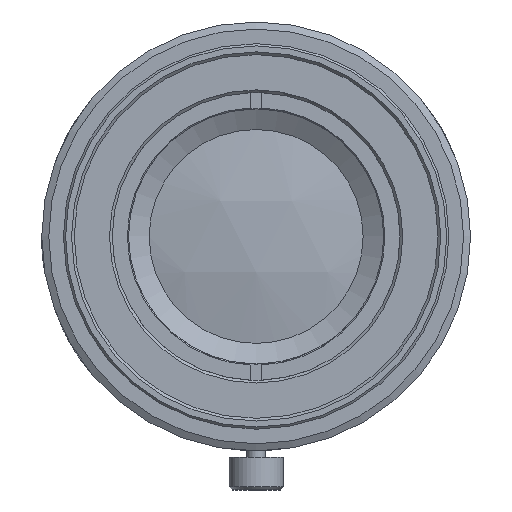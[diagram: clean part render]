
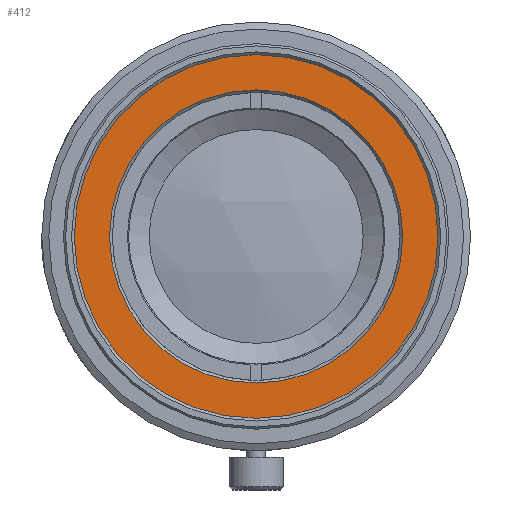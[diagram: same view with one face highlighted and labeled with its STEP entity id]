
A CAD part, front view. The second image highlights one B-rep face of the part: STEP entity #412.
In plain terms, the highlighted planar face has unit normal (0, -1, 0).
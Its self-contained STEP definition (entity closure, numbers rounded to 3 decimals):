
#412 = ADVANCED_FACE( 'NONE', ( #1066, #1067 ), #1068, .F. );
#1066 = FACE_OUTER_BOUND( '', #2039, .T. );
#1067 = FACE_BOUND( '', #2040, .T. );
#1068 = PLANE( '', #2041 );
#2039 = EDGE_LOOP( '', ( #3302 ) );
#2040 = EDGE_LOOP( '', ( #3303 ) );
#2041 = AXIS2_PLACEMENT_3D( '', #3304, #3305, #3306 );
#3302 = ORIENTED_EDGE( '', *, *, #5328, .T. );
#3303 = ORIENTED_EDGE( '', *, *, #5152, .F. );
#3304 = CARTESIAN_POINT( '', ( 0., -51.377, 17. ) );
#3305 = DIRECTION( '', ( 0., 1., 0. ) );
#3306 = DIRECTION( '', ( 1., 0., 0. ) );
#5152 = EDGE_CURVE( 'NONE', #6084, #6084, #6085, .T. );
#5328 = EDGE_CURVE( 'NONE', #6384, #6384, #6385, .T. );
#6084 = VERTEX_POINT( '', #7582 );
#6085 = CIRCLE( '', #7583, 13.5 );
#6384 = VERTEX_POINT( '', #8160 );
#6385 = CIRCLE( '', #8161, 17. );
#7582 = CARTESIAN_POINT( '', ( 13.5, -51.377, 0. ) );
#7583 = AXIS2_PLACEMENT_3D( '', #9667, #9668, #9669 );
#8160 = CARTESIAN_POINT( '', ( 0., -51.377, 17. ) );
#8161 = AXIS2_PLACEMENT_3D( '', #9860, #9861, #9862 );
#9667 = CARTESIAN_POINT( '', ( 0., -51.377, 0. ) );
#9668 = DIRECTION( '', ( 0., -1., 0. ) );
#9669 = DIRECTION( '', ( 1., 0., 0. ) );
#9860 = CARTESIAN_POINT( '', ( 0., -51.377, 0. ) );
#9861 = DIRECTION( '', ( 0., -1., 0. ) );
#9862 = DIRECTION( '', ( 0., 0., 1. ) );
